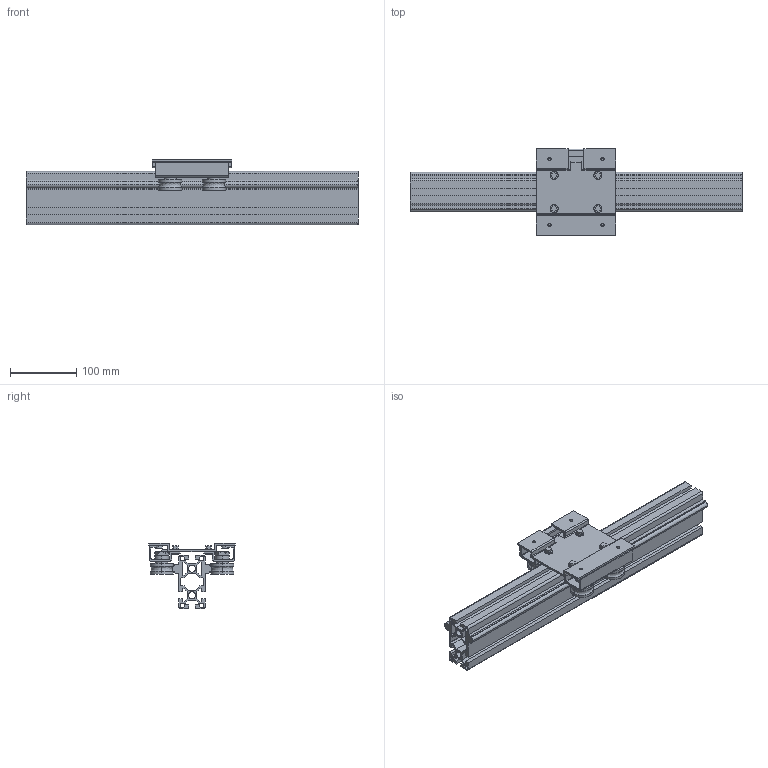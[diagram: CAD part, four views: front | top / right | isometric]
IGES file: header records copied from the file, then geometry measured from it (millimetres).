
Global section: file name: No Iges File Name specified; native system: AutoDesk Inventor R11.0; preprocessor: AutoDesk Inventor Iges Exporter R11.0; author: No Author specified; organization: No Organization specified; date: 20170802.093324; units: millimetre
Bounding box: 500 x 130 x 98 mm (x, y, z)
Surface area: 480577.1 mm2 (no closed solid volume)
Topology: 0 solids, 0 shells, 474 faces, 2930 edges, 2930 vertices
Faces by surface type: bspline 474
